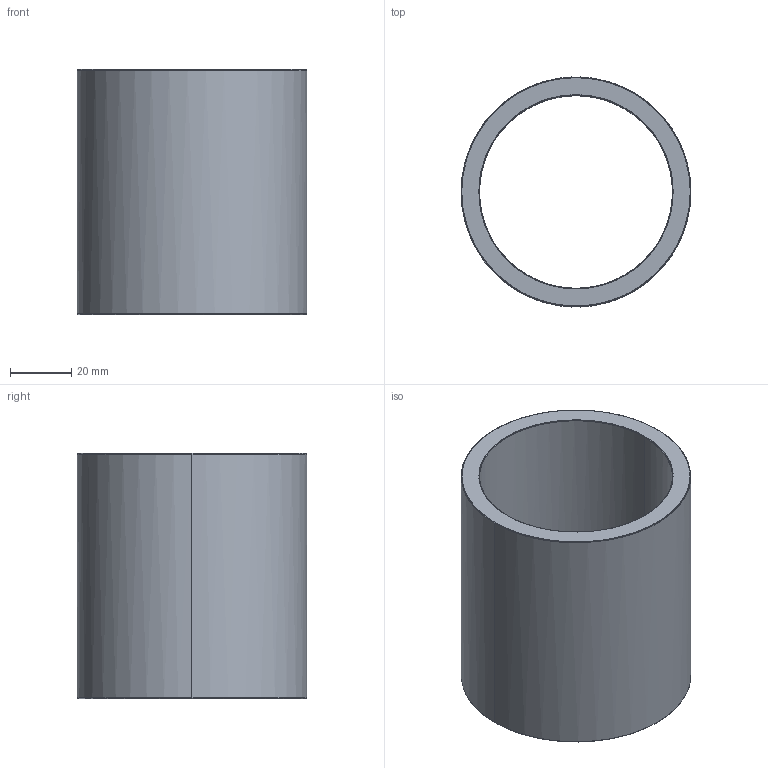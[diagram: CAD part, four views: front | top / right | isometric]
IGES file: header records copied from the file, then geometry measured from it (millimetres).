
Start section: Write IGES format                                    datakit 2008 (c)
Global section: file name: Unknown; native system: DATAKIT Converter; preprocessor: Unknown; author: Unknown; organization: Unknown; date: 950613.180003; units: millimetre
Bounding box: 75 x 74.94 x 80 mm (x, y, z)
Surface area: 37182.8 mm2 (no closed solid volume)
Topology: 0 solids, 0 shells, 14 faces, 56 edges, 56 vertices
Faces by surface type: revolution 12, bspline 2
